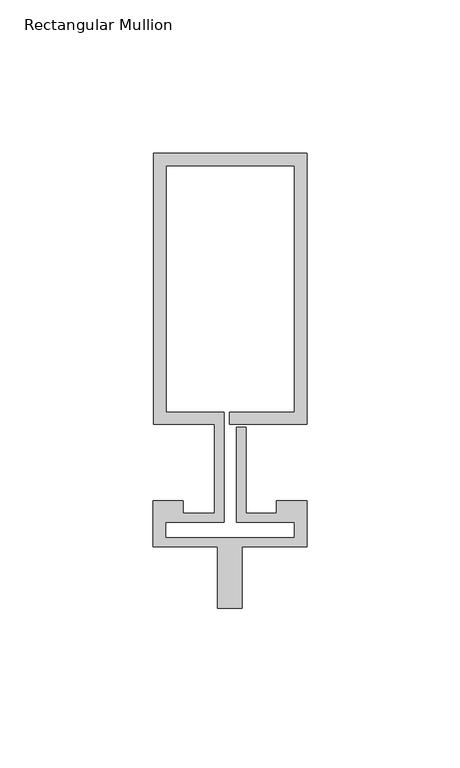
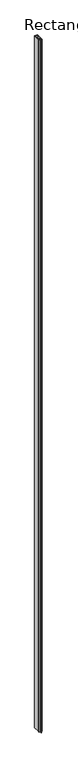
"""IFC4 building model written with IfcOpenShell, lengths in millimetres: member geometry, Rectangular Mullion : Reynaers_CW-50_Mullion-Transom_Horizontal_88.4mm_Facecap-06A."""

from ifc_helpers import new_model, si_unit, frame, origin, place, context, project, spatial, polyline, outline, extrude, source, transform, mapped, element, save


def rectangular_mullion_6f043096(model_context):
    return source(origin(), model_context, "Body", "SweptSolid", [
        extrude(outline(polyline([(-24.8004059, 100.9), (25.1995941, 100.9), (25.1995941, 12.5), (0.0, 12.5), (0.0, 16.5), (21.1995941, 16.5), (21.1995941, 96.9), (-20.8004059, 96.9), (-20.8004059, 16.5), (-1.9004059, 16.5), (-1.9004059, -19.5), (-20.994845, -19.5), (-20.994845, -24.4191338), (21.1995941, -24.4191338), (21.1995941, -19.5), (2.2995941, -19.5), (2.2995941, 11.5), (5.2995941, 11.5), (5.2995941, -16.5), (15.2996495, -16.5), (15.2996495, -12.5), (25.1995941, -12.5), (25.1995941, -27.5), (4.004855, -27.5), (4.004855, -47.5), (-3.995145, -47.5), (-3.995145, -27.5), (-24.994845, -27.5), (-24.994845, -12.5), (-15.2996495, -12.5), (-15.2996495, -16.5), (-4.9004059, -16.5), (-4.9004059, 12.5), (-24.8004059, 12.5), (-24.8004059, 100.9)])), frame((0.0, 0.0, -12000.0), z_axis=(0.0, 0.0, 1.0), x_axis=(1.0, 0.0, 0.0)), (0.0, 0.0, 1.0), 12000.0),
    ])


if __name__ == "__main__":
    model = new_model("IFC4")
    model_context = context("Model", 3, world=origin())
    ifc_project = project(units=[si_unit("LENGTHUNIT", "METRE", prefix="MILLI")], contexts=[model_context])
    site = spatial("IfcSite", under=ifc_project)
    building = spatial("IfcBuilding", under=site)
    placement = place(None, origin())
    rectangular_mullion_shape = rectangular_mullion_6f043096(model_context)
    element("IfcMember", 1, ObjectType="Rectangular Mullion : Reynaers_CW-50_Mullion-Transom_Horizontal_88.4mm_Facecap-06A", at=placement, inside=building, context=model_context, shape_type="MappedRepresentation", body=[
        mapped(rectangular_mullion_shape, transform((0.0, 0.0, 0.0), x_axis=(1.0, 0.0, 0.0), y_axis=(0.0, 1.0, 0.0), z_axis=(0.0, 0.0, 1.0))),
    ])
    save(model, "model.ifc")
